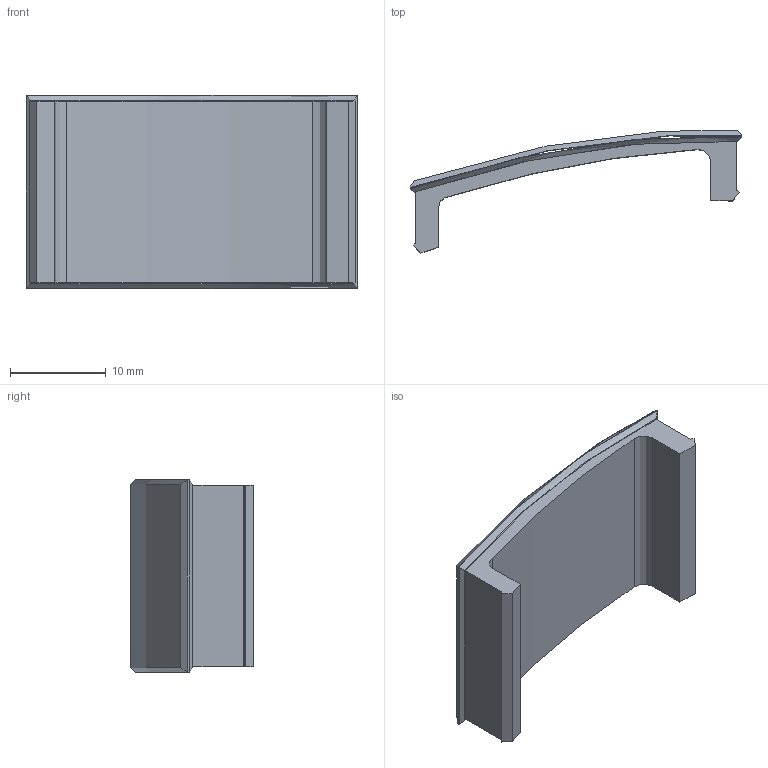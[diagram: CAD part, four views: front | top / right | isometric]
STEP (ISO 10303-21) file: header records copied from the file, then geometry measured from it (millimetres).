
FILE_DESCRIPTION(/* description */ (''),/* implementation_level */ '2;1');
FILE_NAME(/* name */ 'OFFSETplug.step',/* time_stamp */ '2026-06-10T02:31:50-04:00',/* author */ (''),/* organization */ (''),/* preprocessor_version */ 'ST-DEVELOPER v20.1',/* originating_system */ 'Autodesk Translation Framework v15.8.0.0',/* authorisation */ '');
FILE_SCHEMA (('AUTOMOTIVE_DESIGN { 1 0 10303 214 3 1 1 }'));
Length unit declared in the file: inch
Products named in the file (1): 2026-06-10-02-31-50-116
Bounding box: 34.59 x 12.75 x 20.12 mm (x, y, z)
Volume: 2084.7 mm3; surface area: 2034 mm2
Topology: 1 solids, 1 shells, 33 faces, 90 edges, 60 vertices
Faces by surface type: bspline 17, plane 12, cylinder 4
Entity records: 1977 total; most frequent: CARTESIAN_POINT 1255, ORIENTED_EDGE 180, EDGE_CURVE 90, DIRECTION 74, VERTEX_POINT 60, B_SPLINE_CURVE_WITH_KNOTS 58, EDGE_LOOP 34, FACE_OUTER_BOUND 33
